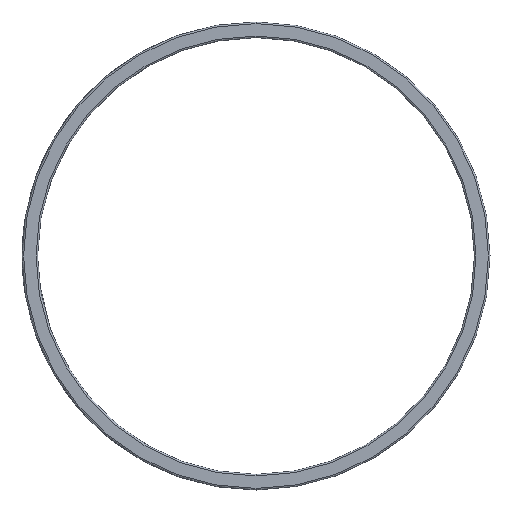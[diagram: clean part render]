
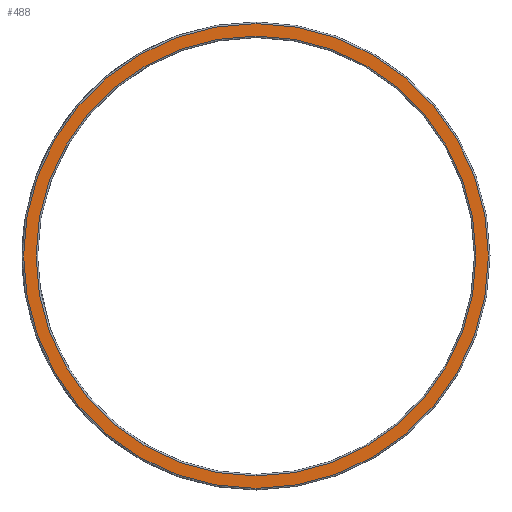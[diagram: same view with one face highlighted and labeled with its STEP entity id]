
A CAD part, front view. The second image highlights one B-rep face of the part: STEP entity #488.
In plain terms, the highlighted planar face has unit normal (0, -1, 0).
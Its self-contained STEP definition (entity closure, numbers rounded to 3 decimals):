
#39 = DIRECTION ( 'NONE',  ( 0., 0., 1. ) ) ;
#41 = DIRECTION ( 'NONE',  ( 0., 0., 1. ) ) ;
#53 = DIRECTION ( 'NONE',  ( 0., -1., 0. ) ) ;
#74 = FACE_BOUND ( 'NONE', #1161, .T. ) ;
#137 = CARTESIAN_POINT ( 'NONE',  ( 0., 0., 0. ) ) ;
#151 = DIRECTION ( 'NONE',  ( 0., 0., 1. ) ) ;
#161 = CARTESIAN_POINT ( 'NONE',  ( 0., 0., 423. ) ) ;
#173 = CIRCLE ( 'NONE', #995, 423. ) ;
#174 = ORIENTED_EDGE ( 'NONE', *, *, #427, .T. ) ;
#184 = ORIENTED_EDGE ( 'NONE', *, *, #187, .T. ) ;
#187 = EDGE_CURVE ( 'NONE', #415, #1129, #520, .T. ) ;
#195 = ORIENTED_EDGE ( 'NONE', *, *, #1031, .T. ) ;
#247 = CIRCLE ( 'NONE', #521, 447. ) ;
#276 = AXIS2_PLACEMENT_3D ( 'NONE', #1170, #593, #39 ) ;
#282 = CARTESIAN_POINT ( 'NONE',  ( 0., 0., -423. ) ) ;
#312 = CARTESIAN_POINT ( 'NONE',  ( 0., 0., 0. ) ) ;
#411 = DIRECTION ( 'NONE',  ( 0., 1., 0. ) ) ;
#415 = VERTEX_POINT ( 'NONE', #768 ) ;
#427 = EDGE_CURVE ( 'NONE', #706, #660, #173, .T. ) ;
#441 = CARTESIAN_POINT ( 'NONE',  ( 0., 0., 0. ) ) ;
#488 = ADVANCED_FACE ( 'NONE', ( #74, #1082 ), #509, .F. ) ;
#509 = PLANE ( 'NONE',  #276 ) ;
#520 = CIRCLE ( 'NONE', #894, 447. ) ;
#521 = AXIS2_PLACEMENT_3D ( 'NONE', #609, #53, #151 ) ;
#539 = EDGE_CURVE ( 'NONE', #1129, #415, #247, .T. ) ;
#558 = CIRCLE ( 'NONE', #801, 423. ) ;
#593 = DIRECTION ( 'NONE',  ( 0., 1., 0. ) ) ;
#609 = CARTESIAN_POINT ( 'NONE',  ( 0., 0., 0. ) ) ;
#660 = VERTEX_POINT ( 'NONE', #161 ) ;
#705 = DIRECTION ( 'NONE',  ( 0., 1., 0. ) ) ;
#706 = VERTEX_POINT ( 'NONE', #282 ) ;
#768 = CARTESIAN_POINT ( 'NONE',  ( 0., 0., 447. ) ) ;
#788 = CARTESIAN_POINT ( 'NONE',  ( 0., 0., -447. ) ) ;
#801 = AXIS2_PLACEMENT_3D ( 'NONE', #137, #705, #41 ) ;
#894 = AXIS2_PLACEMENT_3D ( 'NONE', #441, #1095, #1194 ) ;
#995 = AXIS2_PLACEMENT_3D ( 'NONE', #312, #411, #1066 ) ;
#1021 = EDGE_LOOP ( 'NONE', ( #184, #1166 ) ) ;
#1031 = EDGE_CURVE ( 'NONE', #660, #706, #558, .T. ) ;
#1066 = DIRECTION ( 'NONE',  ( 0., 0., 1. ) ) ;
#1082 = FACE_OUTER_BOUND ( 'NONE', #1021, .T. ) ;
#1095 = DIRECTION ( 'NONE',  ( 0., -1., 0. ) ) ;
#1129 = VERTEX_POINT ( 'NONE', #788 ) ;
#1161 = EDGE_LOOP ( 'NONE', ( #195, #174 ) ) ;
#1166 = ORIENTED_EDGE ( 'NONE', *, *, #539, .T. ) ;
#1170 = CARTESIAN_POINT ( 'NONE',  ( 0., 0., 0. ) ) ;
#1194 = DIRECTION ( 'NONE',  ( 0., 0., 1. ) ) ;
